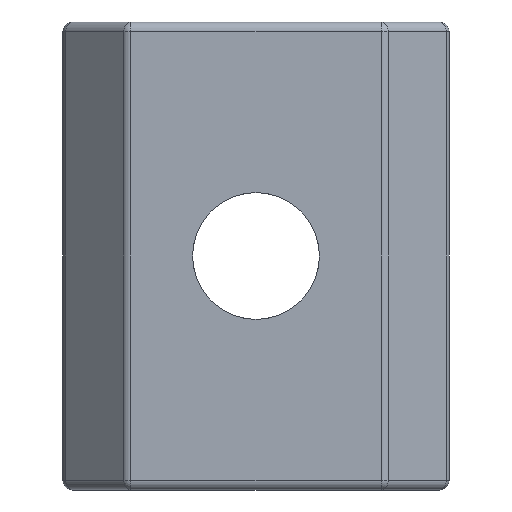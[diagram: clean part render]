
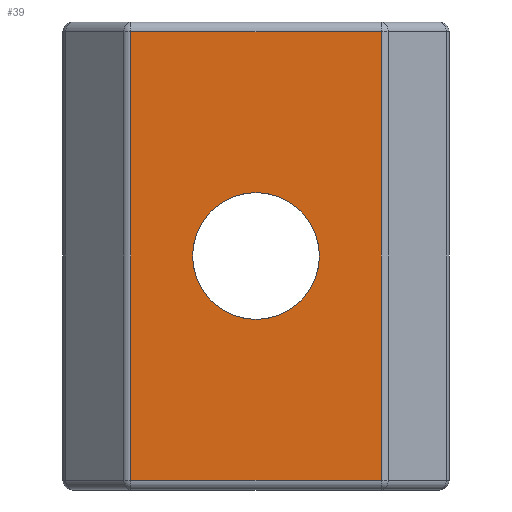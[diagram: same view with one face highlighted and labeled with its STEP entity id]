
A CAD part, front view. The second image highlights one B-rep face of the part: STEP entity #39.
In plain terms, the highlighted planar face has unit normal (0, -1, 0).
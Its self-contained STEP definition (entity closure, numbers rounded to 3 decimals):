
#2 = CARTESIAN_POINT ( 'NONE',  ( -7.705, -6.533, -24. ) ) ;
#21 = CARTESIAN_POINT ( 'NONE',  ( -7.913, -6.533, -24. ) ) ;
#31 = ORIENTED_EDGE ( 'NONE', *, *, #1923, .T. ) ;
#39 = ADVANCED_FACE ( 'NONE', ( #1991, #2298 ), #1576, .T. ) ;
#101 = LINE ( 'NONE', #231, #1230 ) ;
#221 = DIRECTION ( 'NONE',  ( 0., 0., -1. ) ) ;
#231 = CARTESIAN_POINT ( 'NONE',  ( 5.14, -6.533, -24. ) ) ;
#301 = VERTEX_POINT ( 'NONE', #1067 ) ;
#318 = CARTESIAN_POINT ( 'NONE',  ( 5.14, -6.533, -23.5 ) ) ;
#395 = LINE ( 'NONE', #2055, #2306 ) ;
#401 = ORIENTED_EDGE ( 'NONE', *, *, #1394, .T. ) ;
#419 = ORIENTED_EDGE ( 'NONE', *, *, #1627, .T. ) ;
#451 = CARTESIAN_POINT ( 'NONE',  ( -7.705, -6.533, -23.5 ) ) ;
#491 = EDGE_CURVE ( 'NONE', #1548, #1732, #101, .T. ) ;
#542 = ORIENTED_EDGE ( 'NONE', *, *, #1179, .T. ) ;
#551 = AXIS2_PLACEMENT_3D ( 'NONE', #1204, #1776, #221 ) ;
#571 = DIRECTION ( 'NONE',  ( 1., 0., 0. ) ) ;
#623 = CARTESIAN_POINT ( 'NONE',  ( -7.913, -6.533, -0.5 ) ) ;
#720 = CARTESIAN_POINT ( 'NONE',  ( -1.283, -6.533, -8.75 ) ) ;
#754 = EDGE_LOOP ( 'NONE', ( #1250, #31 ) ) ;
#776 = VERTEX_POINT ( 'NONE', #720 ) ;
#819 = LINE ( 'NONE', #2, #1531 ) ;
#830 = DIRECTION ( 'NONE',  ( -1., 0., 0. ) ) ;
#925 = CIRCLE ( 'NONE', #551, 3.25 ) ;
#959 = DIRECTION ( 'NONE',  ( 0., 1., 0. ) ) ;
#1067 = CARTESIAN_POINT ( 'NONE',  ( -7.705, -6.533, -0.5 ) ) ;
#1099 = VECTOR ( 'NONE', #830, 1000. ) ;
#1179 = EDGE_CURVE ( 'NONE', #301, #1407, #819, .T. ) ;
#1204 = CARTESIAN_POINT ( 'NONE',  ( -1.283, -6.533, -12. ) ) ;
#1225 = AXIS2_PLACEMENT_3D ( 'NONE', #21, #1368, #1919 ) ;
#1230 = VECTOR ( 'NONE', #1905, 1000. ) ;
#1250 = ORIENTED_EDGE ( 'NONE', *, *, #1715, .T. ) ;
#1368 = DIRECTION ( 'NONE',  ( 0., -1., 0. ) ) ;
#1394 = EDGE_CURVE ( 'NONE', #1732, #301, #2092, .T. ) ;
#1407 = VERTEX_POINT ( 'NONE', #451 ) ;
#1518 = DIRECTION ( 'NONE',  ( 0., 0., -1. ) ) ;
#1531 = VECTOR ( 'NONE', #2078, 1000. ) ;
#1548 = VERTEX_POINT ( 'NONE', #318 ) ;
#1576 = PLANE ( 'NONE',  #1225 ) ;
#1627 = EDGE_CURVE ( 'NONE', #1407, #1548, #395, .T. ) ;
#1699 = CIRCLE ( 'NONE', #2208, 3.25 ) ;
#1714 = CARTESIAN_POINT ( 'NONE',  ( -1.283, -6.533, -12. ) ) ;
#1715 = EDGE_CURVE ( 'NONE', #776, #1891, #1699, .T. ) ;
#1729 = CARTESIAN_POINT ( 'NONE',  ( -1.283, -6.533, -15.25 ) ) ;
#1732 = VERTEX_POINT ( 'NONE', #2044 ) ;
#1752 = EDGE_LOOP ( 'NONE', ( #542, #419, #2204, #401 ) ) ;
#1776 = DIRECTION ( 'NONE',  ( 0., 1., 0. ) ) ;
#1891 = VERTEX_POINT ( 'NONE', #1729 ) ;
#1905 = DIRECTION ( 'NONE',  ( 0., 0., 1. ) ) ;
#1919 = DIRECTION ( 'NONE',  ( 0., 0., -1. ) ) ;
#1923 = EDGE_CURVE ( 'NONE', #1891, #776, #925, .T. ) ;
#1991 = FACE_OUTER_BOUND ( 'NONE', #1752, .T. ) ;
#2044 = CARTESIAN_POINT ( 'NONE',  ( 5.14, -6.533, -0.5 ) ) ;
#2055 = CARTESIAN_POINT ( 'NONE',  ( -7.913, -6.533, -23.5 ) ) ;
#2078 = DIRECTION ( 'NONE',  ( 0., 0., -1. ) ) ;
#2092 = LINE ( 'NONE', #623, #1099 ) ;
#2204 = ORIENTED_EDGE ( 'NONE', *, *, #491, .T. ) ;
#2208 = AXIS2_PLACEMENT_3D ( 'NONE', #1714, #959, #1518 ) ;
#2298 = FACE_BOUND ( 'NONE', #754, .T. ) ;
#2306 = VECTOR ( 'NONE', #571, 1000. ) ;
